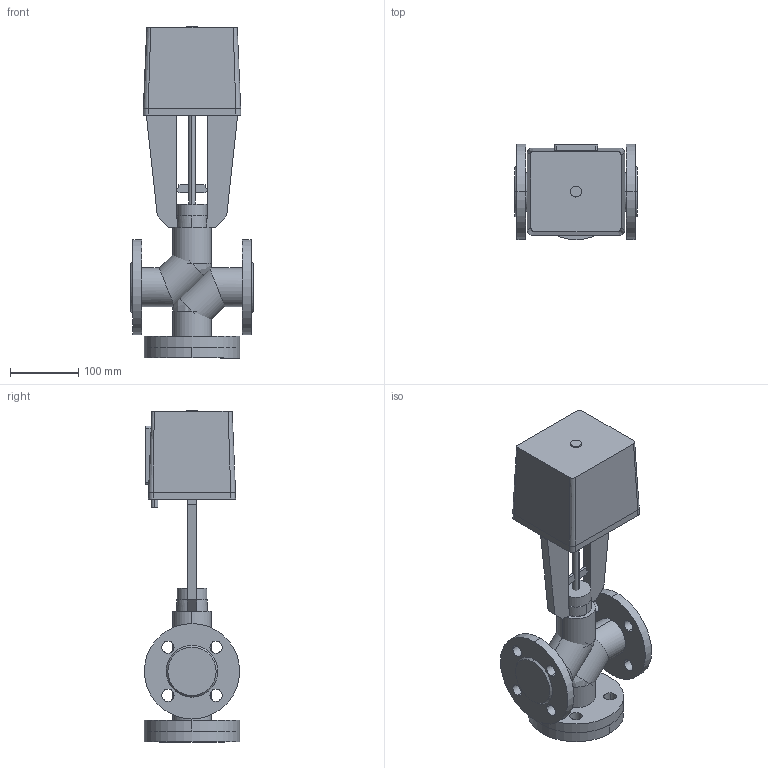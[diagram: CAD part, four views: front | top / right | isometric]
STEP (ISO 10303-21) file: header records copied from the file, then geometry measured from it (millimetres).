
FILE_DESCRIPTION(/* description */ (''),/* implementation_level */ '2;1');
FILE_NAME(/* name */ 'ТРК DN32 PN 1.6 МПа LEA 1200',/* time_stamp */ '2026-07-14T23:08:46+03:00',/* author */ (''),/* organization */ (''),/* preprocessor_version */ 'ST-DEVELOPER v20',/* originating_system */ '',/* authorisation */ '');
FILE_SCHEMA (('AP242_MANAGED_MODEL_BASED_3D_ENGINEERING_MIM_LF { 1 0 10303 442 1 1 4 }'));
Length unit declared in the file: millimetre
Products named in the file (14): TopLevelAssembly; Выдавливание; Модификатор; Модификатор_1; Выдавливание_
1; Выдавливание_
2; Вращение; Выдавливание_
3; Выдавливание_
4; 1600; Переход; Объемная геометрия 
присоединена; Полый Выдавливание; Объемная геометрия 
присоединена_1
Assembly tree (13 placements, depth 2):
  TopLevelAssembly
    Выдавливание
    Модификатор
    Модификатор_1
    Выдавливание_
1
    Выдавливание_
2
    Вращение
    Выдавливание_
3
    Выдавливание_
4
    1600
    Переход
    Объемная геометрия 
присоединена
    Полый Выдавливание
    Объемная геометрия 
присоединена_1
Bounding box: 180 x 140 x 488 mm (x, y, z)
Volume: 4185877.2 mm3; surface area: 443478 mm2
Topology: 18 solids, 18 shells, 159 faces, 366 edges, 240 vertices
Faces by surface type: plane 77, cylinder 70, bspline 8, cone 4
Entity records: 5164 total; most frequent: CARTESIAN_POINT 972, DIRECTION 882, ORIENTED_EDGE 716, EDGE_CURVE 358, AXIS2_PLACEMENT_3D 346, VERTEX_POINT 240, EDGE_LOOP 194, LINE 190
